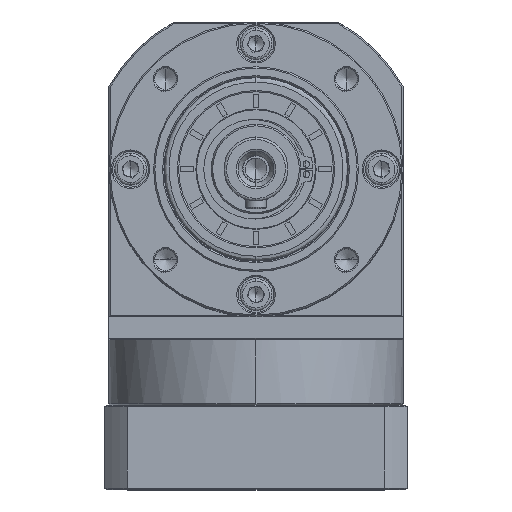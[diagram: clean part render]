
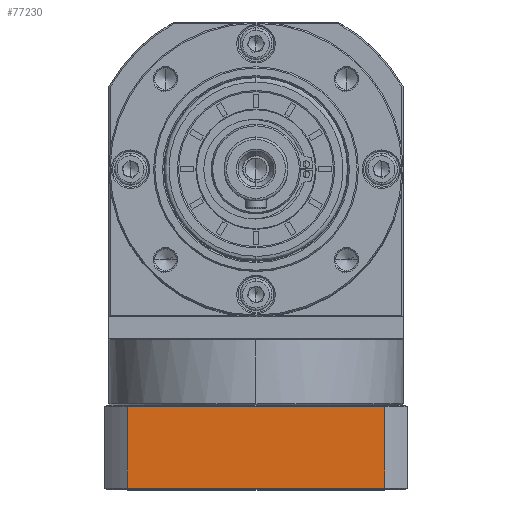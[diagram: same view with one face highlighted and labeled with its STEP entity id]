
A CAD part, top view. The second image highlights one B-rep face of the part: STEP entity #77230.
In plain terms, the highlighted planar face has unit normal (0, 0, 1).
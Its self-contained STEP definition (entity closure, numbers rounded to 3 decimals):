
#13429 = CARTESIAN_POINT ( 'NONE',  ( -229.621, -61.078, 76.176 ) ) ;
#14034 = DIRECTION ( 'NONE',  ( 0., 1., 0. ) ) ;
#14844 = ORIENTED_EDGE ( 'NONE', *, *, #76697, .F. ) ;
#16025 = VERTEX_POINT ( 'NONE', #166902 ) ;
#17003 = VECTOR ( 'NONE', #40428, 1000. ) ;
#18214 = CARTESIAN_POINT ( 'NONE',  ( -238.369, -61.078, 76.176 ) ) ;
#20150 = LINE ( 'NONE', #13429, #132168 ) ;
#20734 = EDGE_CURVE ( 'NONE', #16025, #34993, #133517, .T. ) ;
#21354 = LINE ( 'NONE', #82218, #17003 ) ;
#25783 = DIRECTION ( 'NONE',  ( 0., -1., 0. ) ) ;
#34993 = VERTEX_POINT ( 'NONE', #85395 ) ;
#36096 = VERTEX_POINT ( 'NONE', #119616 ) ;
#39622 = CARTESIAN_POINT ( 'NONE',  ( -238.369, -60.578, 76.176 ) ) ;
#40428 = DIRECTION ( 'NONE',  ( 1., 0., 0. ) ) ;
#46429 = DIRECTION ( 'NONE',  ( -1., 0., 0. ) ) ;
#49352 = ORIENTED_EDGE ( 'NONE', *, *, #20734, .F. ) ;
#54397 = VECTOR ( 'NONE', #25783, 1000. ) ;
#73457 = PLANE ( 'NONE',  #152976 ) ;
#75262 = DIRECTION ( 'NONE',  ( 0., 0., -1. ) ) ;
#76697 = EDGE_CURVE ( 'NONE', #173521, #16025, #21354, .T. ) ;
#77230 = ADVANCED_FACE ( 'NONE', ( #177176 ), #73457, .F. ) ;
#79621 = EDGE_LOOP ( 'NONE', ( #49352, #14844, #175253, #128667 ) ) ;
#80846 = DIRECTION ( 'NONE',  ( -1., 0., 0. ) ) ;
#81154 = CARTESIAN_POINT ( 'NONE',  ( -129.117, 193.317, 76.176 ) ) ;
#82218 = CARTESIAN_POINT ( 'NONE',  ( -238.369, -28.578, 76.176 ) ) ;
#85018 = EDGE_CURVE ( 'NONE', #34993, #36096, #116878, .T. ) ;
#85395 = CARTESIAN_POINT ( 'NONE',  ( -129.117, -60.578, 76.176 ) ) ;
#116878 = LINE ( 'NONE', #39622, #176333 ) ;
#119616 = CARTESIAN_POINT ( 'NONE',  ( -229.621, -60.578, 76.176 ) ) ;
#127980 = CARTESIAN_POINT ( 'NONE',  ( -229.621, -28.578, 76.176 ) ) ;
#128667 = ORIENTED_EDGE ( 'NONE', *, *, #85018, .F. ) ;
#132168 = VECTOR ( 'NONE', #14034, 1000. ) ;
#133517 = LINE ( 'NONE', #81154, #54397 ) ;
#152976 = AXIS2_PLACEMENT_3D ( 'NONE', #18214, #75262, #46429 ) ;
#166902 = CARTESIAN_POINT ( 'NONE',  ( -129.117, -28.578, 76.176 ) ) ;
#172855 = EDGE_CURVE ( 'NONE', #36096, #173521, #20150, .T. ) ;
#173521 = VERTEX_POINT ( 'NONE', #127980 ) ;
#175253 = ORIENTED_EDGE ( 'NONE', *, *, #172855, .F. ) ;
#176333 = VECTOR ( 'NONE', #80846, 1000. ) ;
#177176 = FACE_OUTER_BOUND ( 'NONE', #79621, .T. ) ;
